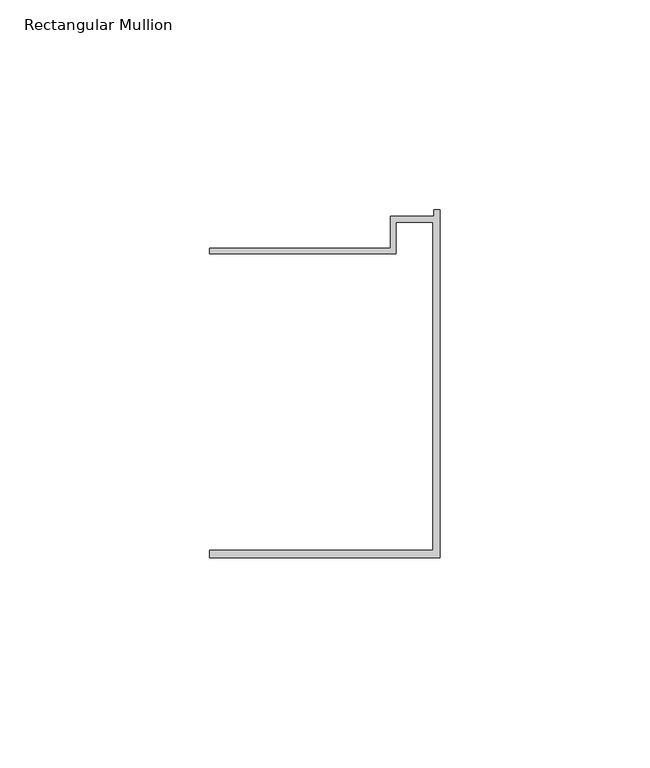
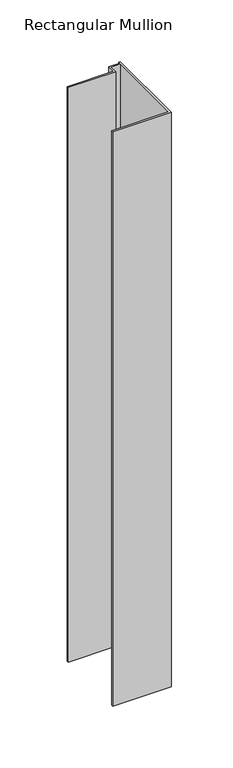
"""IFC4 building model written with IfcOpenShell, lengths in millimetres: member geometry, Rectangular Mullion : Danpal Bottom Mullion."""

from ifc_helpers import new_model, si_unit, frame, origin, place, context, project, spatial, polyline, outline, extrude, source, transform, mapped, element, save


def rectangular_mullion_230216f2(model_context):
    return source(origin(), model_context, "Body", "SweptSolid", [
        extrude(outline(polyline([(-54.8546474, 80.8144448), (-54.8546474, 82.2144448), (-11.7999842, 82.2144448), (-11.7999842, 89.8206003), (-1.4, 89.8206003), (-1.4, 91.3144448), (0.0, 91.3144448), (0.0, 8.4568509), (-54.8546474, 8.4568509), (-54.8546474, 10.2068341), (-1.6, 10.2068341), (-1.6, 88.4144116), (-10.3999842, 88.4144116), (-10.3999842, 80.8144448), (-54.8546474, 80.8144448)])), frame((0.0, 0.0, -568.9746677), z_axis=(0.0, 0.0, 1.0), x_axis=(1.0, 0.0, 0.0)), (0.0, 0.0, 1.0), 568.9746677),
    ])


if __name__ == "__main__":
    model = new_model("IFC4")
    model_context = context("Model", 3, world=origin())
    ifc_project = project(units=[si_unit("LENGTHUNIT", "METRE", prefix="MILLI")], contexts=[model_context])
    site = spatial("IfcSite", under=ifc_project)
    building = spatial("IfcBuilding", under=site)
    placement = place(None, origin())
    rectangular_mullion_shape = rectangular_mullion_230216f2(model_context)
    element("IfcMember", 1, ObjectType="Rectangular Mullion : Danpal Bottom Mullion", at=placement, inside=building, context=model_context, shape_type="MappedRepresentation", body=[
        mapped(rectangular_mullion_shape, transform((0.0, 0.0, 0.0), x_axis=(1.0, 0.0, 0.0), y_axis=(0.0, 1.0, 0.0), z_axis=(0.0, 0.0, 1.0))),
    ])
    save(model, "model.ifc")
